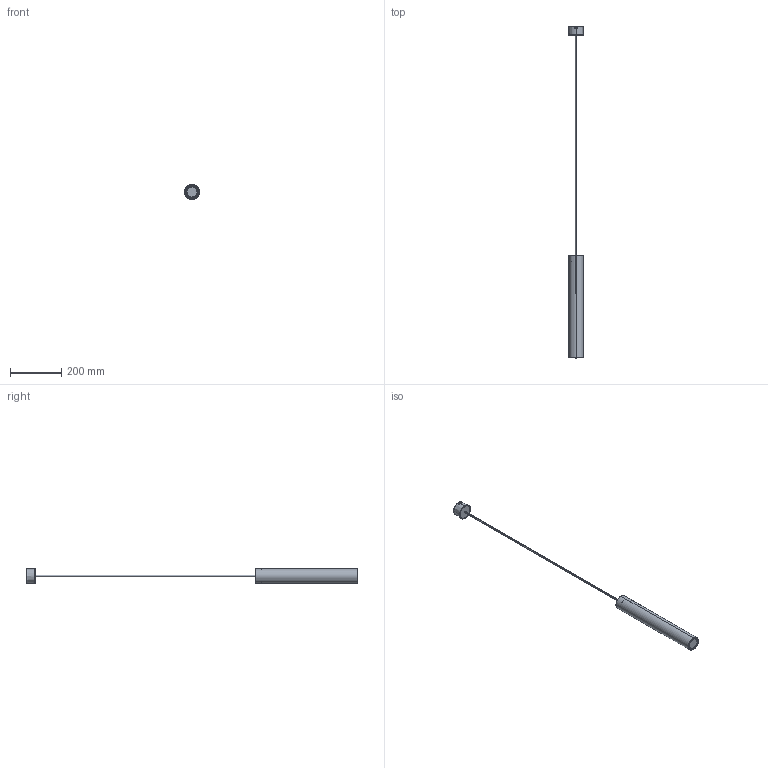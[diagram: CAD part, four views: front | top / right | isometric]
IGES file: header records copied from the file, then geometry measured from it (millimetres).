
Start section: SolidWorks IGES file using analytic representation for surfaces
Global section: file name: C:\Users\ppp\Desktop\Nowodvorski\Modele 3D_lampy\Lampy Katalogowe\Eye\Wisz¹ce\400\Eye wisz¹cy_400_GU10.IGS; native system: SolidWorks 2012; preprocessor: SolidWorks 2012; author: ppp; date: 151009.143448; units: millimetre
Bounding box: 60 x 1296 x 60 mm (x, y, z)
Surface area: 195810.1 mm2 (no closed solid volume)
Topology: 0 solids, 0 shells, 135 faces, 2386 edges, 2380 vertices
Faces by surface type: bspline 78, revolution 57
